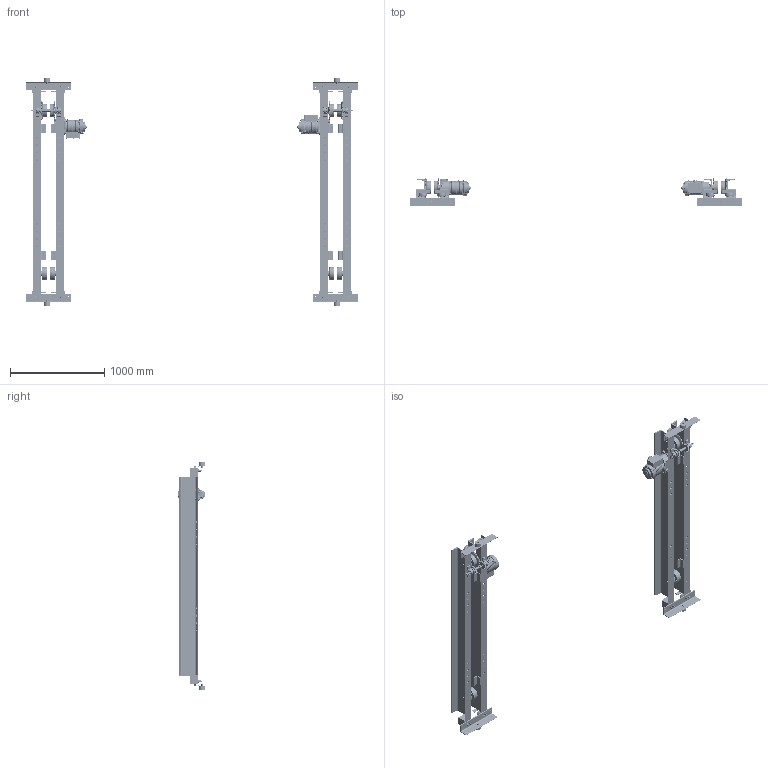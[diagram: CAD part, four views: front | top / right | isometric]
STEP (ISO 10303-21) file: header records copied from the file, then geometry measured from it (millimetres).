
FILE_DESCRIPTION (( 'STEP AP214' ), '1' );
FILE_NAME ('MUMH-3-0535.STEP', '2026-08-18T14:01:43', ( '' ), ( '' ), 'SwSTEP 2.0', 'SolidWorks 2026', '' );
FILE_SCHEMA (( 'AUTOMOTIVE_DESIGN' ));
Length unit declared in the file: inch
Products named in the file (86): 6257003; 6257001; 9093427_9093427; 9091256_B18.3.1M - 6 x 1.0 x 50 Hex SHCS -- 24CHX; 62359X_62359-1; 9798526_9798526; 6233203; 9000508; G1JE040S9301; 9093146_9093146; 6257002_A308-308-006; 6232304; G1JE040S9310; 9012709_Rectangular section spring washer BS 4464 - 16 (Type B); G1JE075S9603; 6232603; 6234702X_6234702B; 6234503; MC08-021.4_83; G1JE075S9610; N6QL5301101; 9012519_9012519; N6QL210114; 9093433_9093433; 9043411; G1CM075T_ROTATED 180 DEGREES; 9093354_9093354; 62360X_62360-1; 9091250_9091250; 9000605; MS555010_MS555010; 62362X_62362-1; 6232403; 62587; 9047125_B27.7M - 3AM1-23; 5204405_5204405; 9012707_9012707; 9093329_9093329; G1JE040S9303; 9047120_9047120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
Assembly tree (382 placements, depth 5):
  MUMH-3-0535
    62360X_62360-1
      62357X_62357-1
        MC08-021.4_83
        6257003
          6257002_A308-308-006
          6257001
        6257003
          6257002_A308-308-006
          6257001
      6232303  x2
      6232304  x2
      5204405_5204405  x2
      6233203  x2
      6257005
    62361X_62361-1  x2
      62358X_62358-1
        MC08-021.4_83
        6257003
          6257002_A308-308-006
          6257001
        6257003
          6257002_A308-308-006
          6257001
      6232303
      6232304
      5204405_5204405
      6233203
    62362X_62362-1
      62359X_62359-1
        MC08-021.4_83
        6257003
          6257002_A308-308-006
          6257001
        6257003
          6257002_A308-308-006
          6257001
      6232303  x2
      6232304  x2
      5204405_5204405  x2
      6233203  x2
    6234503  x4
      6232603
      9047268_B27.7M - 3BM1-68
      9000508
    6232403  x8
    9047140_9047140  x8
    N6QL5301101  x4
      N6QL530E9101_Domestic
      9047268_B27.7M - 3BM1-68
      9000508
    6232404  x8
    9047125_B27.7M - 3AM1-23  x8
    9012515_9012515  x16
    9093433_9093433  x32
    9093146_9093146  x8
    N6QL210207  x4
    9012514_9012514  x12
    9093101_9093101  x4
    9093424_9093424  x8
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Bounding box: 3519.98 x 302.93 x 2414.81 mm (x, y, z)
Volume: 53520209 mm3; surface area: 10742613.4 mm2
Topology: 405 solids, 501 shells, 25496 faces, 66256 edges, 42862 vertices
Faces by surface type: plane 12274, cylinder 7312, cone 3278, bspline 1594, torus 862, sphere 176
Entity records: 186119 total; most frequent: CARTESIAN_POINT 58792, ORIENTED_EDGE 26156, DIRECTION 25574, EDGE_CURVE 13082, AXIS2_PLACEMENT_3D 9992, VERTEX_POINT 8381, LINE 5590, VECTOR 5590
